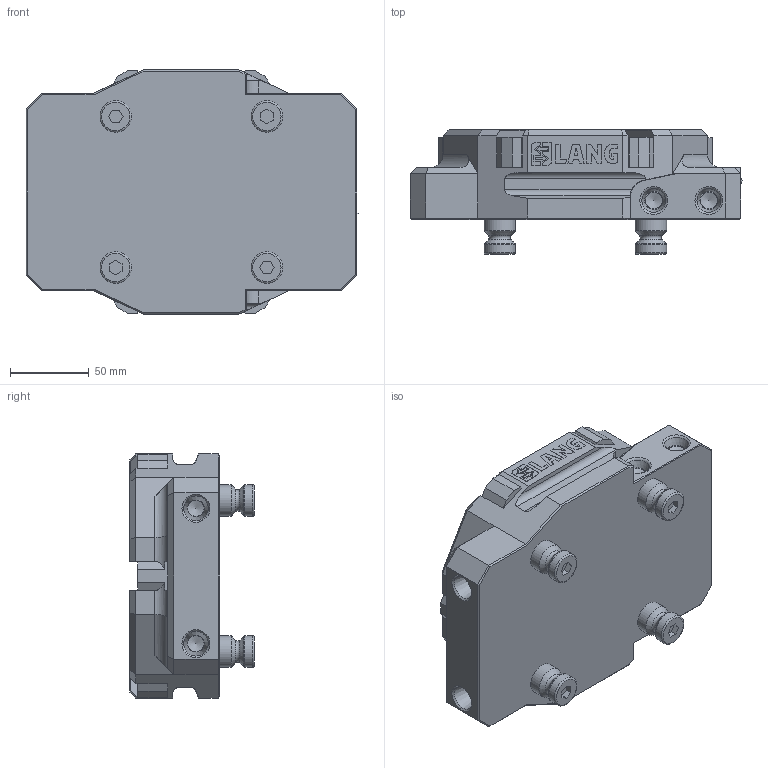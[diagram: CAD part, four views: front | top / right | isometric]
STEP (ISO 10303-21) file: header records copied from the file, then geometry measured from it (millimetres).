
FILE_DESCRIPTION (( 'STEP AP214' ), '1' );
FILE_NAME ('59616.STEP', '2020-07-31T09:26:56', ( '' ), ( '' ), 'SwSTEP 2.0', 'SolidWorks 2019', '' );
FILE_SCHEMA (( 'AUTOMOTIVE_DESIGN' ));
Length unit declared in the file: millimetre
Products named in the file (1): 59616
Bounding box: 210.86 x 79 x 155.2 mm (x, y, z)
Volume: 1343941.6 mm3; surface area: 116826.4 mm2
Topology: 5 solids, 5 shells, 689 faces, 1793 edges, 1165 vertices
Faces by surface type: plane 486, bspline 107, cone 42, cylinder 38, torus 16
Full cylindrical faces by diameter (mm): 8.5 x4, 13.2 x1, 16 x8, 20 x8, 48 x1
Entity records: 31676 total; most frequent: CARTESIAN_POINT 8374, ORIENTED_EDGE 3374, DIRECTION 2733, EDGE_CURVE 1687, VECTOR 1311, LINE 1311, VERTEX_POINT 1140, EDGE_LOOP 821
